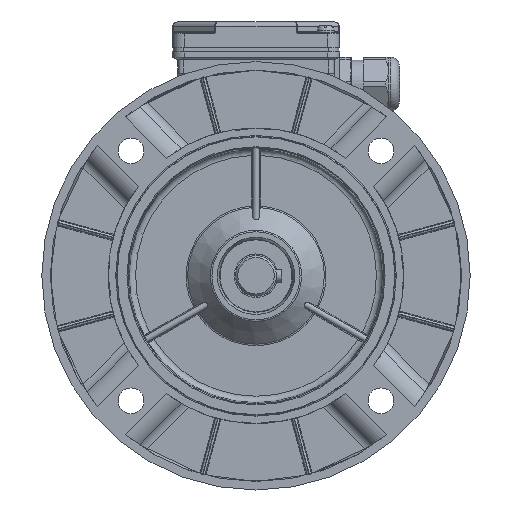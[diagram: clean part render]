
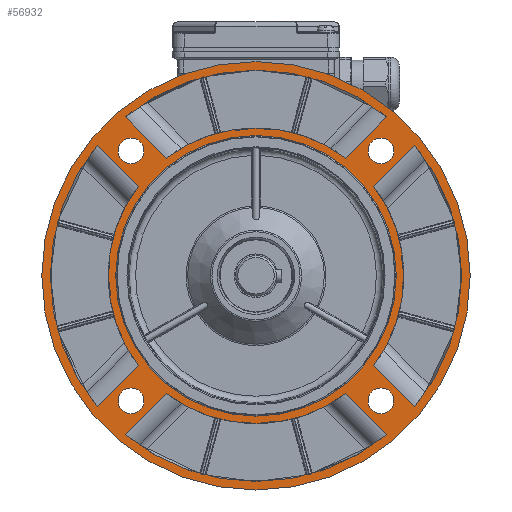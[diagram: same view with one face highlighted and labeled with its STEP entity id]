
A CAD part, left-side view. The second image highlights one B-rep face of the part: STEP entity #56932.
In plain terms, the highlighted planar face has unit normal (-1, 0, 0).
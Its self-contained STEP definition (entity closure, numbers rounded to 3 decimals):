
#2235=LINE('',#85247,#5464);
#2236=LINE('',#85252,#5465);
#2237=LINE('',#85255,#5466);
#2238=LINE('',#85260,#5467);
#2239=LINE('',#85265,#5468);
#2240=LINE('',#85270,#5469);
#2241=LINE('',#85273,#5470);
#2242=LINE('',#85278,#5471);
#5464=VECTOR('',#66592,1000.);
#5465=VECTOR('',#66595,1000.);
#5466=VECTOR('',#66598,1000.);
#5467=VECTOR('',#66601,1000.);
#5468=VECTOR('',#66606,1000.);
#5469=VECTOR('',#66609,1000.);
#5470=VECTOR('',#66612,1000.);
#5471=VECTOR('',#66615,1000.);
#8526=PLANE('',#59944);
#13680=ORIENTED_EDGE('',*,*,#24206,.T.);
#13681=ORIENTED_EDGE('',*,*,#24207,.T.);
#13682=ORIENTED_EDGE('',*,*,#24208,.T.);
#13683=ORIENTED_EDGE('',*,*,#24209,.T.);
#13684=ORIENTED_EDGE('',*,*,#24210,.T.);
#13685=ORIENTED_EDGE('',*,*,#24211,.T.);
#13686=ORIENTED_EDGE('',*,*,#24212,.T.);
#13687=ORIENTED_EDGE('',*,*,#24213,.T.);
#13688=ORIENTED_EDGE('',*,*,#24168,.F.);
#13689=ORIENTED_EDGE('',*,*,#24167,.F.);
#13690=ORIENTED_EDGE('',*,*,#24166,.F.);
#13691=ORIENTED_EDGE('',*,*,#24165,.F.);
#13692=ORIENTED_EDGE('',*,*,#24214,.T.);
#13693=ORIENTED_EDGE('',*,*,#24205,.T.);
#13694=ORIENTED_EDGE('',*,*,#24215,.T.);
#13695=ORIENTED_EDGE('',*,*,#24216,.T.);
#13696=ORIENTED_EDGE('',*,*,#24217,.T.);
#13697=ORIENTED_EDGE('',*,*,#24218,.T.);
#13698=ORIENTED_EDGE('',*,*,#24219,.T.);
#13699=ORIENTED_EDGE('',*,*,#24220,.T.);
#13700=ORIENTED_EDGE('',*,*,#24221,.T.);
#13701=ORIENTED_EDGE('',*,*,#24222,.T.);
#24165=EDGE_CURVE('',#29788,#29788,#33233,.T.);
#24166=EDGE_CURVE('',#29789,#29789,#33234,.T.);
#24167=EDGE_CURVE('',#29790,#29790,#33235,.T.);
#24168=EDGE_CURVE('',#29791,#29791,#33236,.T.);
#24205=EDGE_CURVE('',#29812,#29812,#33246,.T.);
#24206=EDGE_CURVE('',#29813,#29814,#2235,.T.);
#24207=EDGE_CURVE('',#29814,#29815,#33247,.T.);
#24208=EDGE_CURVE('',#29815,#29816,#2236,.T.);
#24209=EDGE_CURVE('',#29816,#29813,#33248,.T.);
#24210=EDGE_CURVE('',#29817,#29818,#2237,.T.);
#24211=EDGE_CURVE('',#29818,#29819,#33249,.T.);
#24212=EDGE_CURVE('',#29819,#29820,#2238,.T.);
#24213=EDGE_CURVE('',#29820,#29817,#33250,.T.);
#24214=EDGE_CURVE('',#29821,#29821,#33251,.F.);
#24215=EDGE_CURVE('',#29822,#29823,#2239,.T.);
#24216=EDGE_CURVE('',#29823,#29824,#33252,.T.);
#24217=EDGE_CURVE('',#29824,#29825,#2240,.T.);
#24218=EDGE_CURVE('',#29825,#29822,#33253,.T.);
#24219=EDGE_CURVE('',#29826,#29827,#2241,.T.);
#24220=EDGE_CURVE('',#29827,#29828,#33254,.T.);
#24221=EDGE_CURVE('',#29828,#29829,#2242,.T.);
#24222=EDGE_CURVE('',#29829,#29826,#33255,.T.);
#29788=VERTEX_POINT('',#85089);
#29789=VERTEX_POINT('',#85092);
#29790=VERTEX_POINT('',#85095);
#29791=VERTEX_POINT('',#85098);
#29812=VERTEX_POINT('',#85245);
#29813=VERTEX_POINT('',#85248);
#29814=VERTEX_POINT('',#85249);
#29815=VERTEX_POINT('',#85251);
#29816=VERTEX_POINT('',#85253);
#29817=VERTEX_POINT('',#85256);
#29818=VERTEX_POINT('',#85257);
#29819=VERTEX_POINT('',#85259);
#29820=VERTEX_POINT('',#85261);
#29821=VERTEX_POINT('',#85264);
#29822=VERTEX_POINT('',#85266);
#29823=VERTEX_POINT('',#85267);
#29824=VERTEX_POINT('',#85269);
#29825=VERTEX_POINT('',#85271);
#29826=VERTEX_POINT('',#85274);
#29827=VERTEX_POINT('',#85275);
#29828=VERTEX_POINT('',#85277);
#29829=VERTEX_POINT('',#85279);
#33233=CIRCLE('',#59908,6.);
#33234=CIRCLE('',#59910,6.);
#33235=CIRCLE('',#59912,6.);
#33236=CIRCLE('',#59914,6.);
#33246=CIRCLE('',#59943,100.);
#33247=CIRCLE('',#59945,69.);
#33248=CIRCLE('',#59946,96.);
#33249=CIRCLE('',#59947,69.);
#33250=CIRCLE('',#59948,96.);
#33251=CIRCLE('',#59949,65.5);
#33252=CIRCLE('',#59950,69.);
#33253=CIRCLE('',#59951,96.);
#33254=CIRCLE('',#59952,69.);
#33255=CIRCLE('',#59953,96.);
#35396=EDGE_LOOP('',(#13680,#13681,#13682,#13683));
#35397=EDGE_LOOP('',(#13684,#13685,#13686,#13687));
#35398=EDGE_LOOP('',(#13688));
#35399=EDGE_LOOP('',(#13689));
#35400=EDGE_LOOP('',(#13690));
#35401=EDGE_LOOP('',(#13691));
#35402=EDGE_LOOP('',(#13692));
#35403=EDGE_LOOP('',(#13693));
#35404=EDGE_LOOP('',(#13694,#13695,#13696,#13697));
#35405=EDGE_LOOP('',(#13698,#13699,#13700,#13701));
#38224=FACE_BOUND('',#35396,.T.);
#38225=FACE_BOUND('',#35397,.T.);
#38226=FACE_BOUND('',#35398,.T.);
#38227=FACE_BOUND('',#35399,.T.);
#38228=FACE_BOUND('',#35400,.T.);
#38229=FACE_BOUND('',#35401,.T.);
#38230=FACE_BOUND('',#35402,.T.);
#38231=FACE_BOUND('',#35403,.T.);
#38232=FACE_BOUND('',#35404,.T.);
#38233=FACE_BOUND('',#35405,.T.);
#56932=ADVANCED_FACE('',(#38224,#38225,#38226,#38227,#38228,#38229,#38230,
#38231,#38232,#38233),#8526,.T.);
#59908=AXIS2_PLACEMENT_3D('',#85088,#66502,#66503);
#59910=AXIS2_PLACEMENT_3D('',#85091,#66506,#66507);
#59912=AXIS2_PLACEMENT_3D('',#85094,#66510,#66511);
#59914=AXIS2_PLACEMENT_3D('',#85097,#66514,#66515);
#59943=AXIS2_PLACEMENT_3D('',#85244,#66588,#66589);
#59944=AXIS2_PLACEMENT_3D('',#85246,#66590,#66591);
#59945=AXIS2_PLACEMENT_3D('',#85250,#66593,#66594);
#59946=AXIS2_PLACEMENT_3D('',#85254,#66596,#66597);
#59947=AXIS2_PLACEMENT_3D('',#85258,#66599,#66600);
#59948=AXIS2_PLACEMENT_3D('',#85262,#66602,#66603);
#59949=AXIS2_PLACEMENT_3D('',#85263,#66604,#66605);
#59950=AXIS2_PLACEMENT_3D('',#85268,#66607,#66608);
#59951=AXIS2_PLACEMENT_3D('',#85272,#66610,#66611);
#59952=AXIS2_PLACEMENT_3D('',#85276,#66613,#66614);
#59953=AXIS2_PLACEMENT_3D('',#85280,#66616,#66617);
#66502=DIRECTION('',(-1.,0.,0.));
#66503=DIRECTION('',(0.,-1.,0.));
#66506=DIRECTION('',(-1.,0.,0.));
#66507=DIRECTION('',(0.,-1.,0.));
#66510=DIRECTION('',(-1.,0.,0.));
#66511=DIRECTION('',(0.,-1.,0.));
#66514=DIRECTION('',(-1.,0.,0.));
#66515=DIRECTION('',(0.,-1.,0.));
#66588=DIRECTION('',(-1.,0.,0.));
#66589=DIRECTION('',(0.,0.,-1.));
#66590=DIRECTION('',(-1.,0.,0.));
#66591=DIRECTION('',(0.,0.,-1.));
#66592=DIRECTION('',(0.,-0.707,-0.707));
#66593=DIRECTION('',(-1.,0.,0.));
#66594=DIRECTION('',(0.,-1.,0.));
#66595=DIRECTION('',(0.,0.707,-0.707));
#66596=DIRECTION('',(1.,0.,0.));
#66597=DIRECTION('',(0.,-1.,0.));
#66598=DIRECTION('',(0.,0.707,0.707));
#66599=DIRECTION('',(-1.,0.,0.));
#66600=DIRECTION('',(0.,1.,0.));
#66601=DIRECTION('',(0.,-0.707,0.707));
#66602=DIRECTION('',(1.,0.,0.));
#66603=DIRECTION('',(0.,1.,0.));
#66604=DIRECTION('',(-1.,0.,0.));
#66605=DIRECTION('',(0.,0.,-1.));
#66606=DIRECTION('',(0.,-0.707,0.707));
#66607=DIRECTION('',(-1.,0.,0.));
#66608=DIRECTION('',(0.,0.,1.));
#66609=DIRECTION('',(0.,-0.707,-0.707));
#66610=DIRECTION('',(1.,0.,0.));
#66611=DIRECTION('',(0.,0.,1.));
#66612=DIRECTION('',(0.,0.707,-0.707));
#66613=DIRECTION('',(-1.,0.,0.));
#66614=DIRECTION('',(0.,0.,-1.));
#66615=DIRECTION('',(0.,0.707,0.707));
#66616=DIRECTION('',(1.,0.,0.));
#66617=DIRECTION('',(0.,0.,-1.));
#85088=CARTESIAN_POINT('',(-44.8,58.336,58.336));
#85089=CARTESIAN_POINT('',(-44.8,52.336,58.336));
#85091=CARTESIAN_POINT('',(-44.8,-58.336,58.336));
#85092=CARTESIAN_POINT('',(-44.8,-64.336,58.336));
#85094=CARTESIAN_POINT('',(-44.8,-58.336,-58.336));
#85095=CARTESIAN_POINT('',(-44.8,-64.336,-58.336));
#85097=CARTESIAN_POINT('',(-44.8,58.336,-58.336));
#85098=CARTESIAN_POINT('',(-44.8,52.336,-58.336));
#85244=CARTESIAN_POINT('',(-44.8,0.,0.));
#85245=CARTESIAN_POINT('',(-44.8,0.,-100.));
#85246=CARTESIAN_POINT('',(-44.8,0.,-65.));
#85247=CARTESIAN_POINT('',(-44.8,53.605,40.403));
#85248=CARTESIAN_POINT('',(-44.8,74.161,60.96));
#85249=CARTESIAN_POINT('',(-44.8,54.943,41.741));
#85250=CARTESIAN_POINT('',(-44.8,0.,0.));
#85251=CARTESIAN_POINT('',(-44.8,54.943,-41.741));
#85252=CARTESIAN_POINT('',(-44.8,73.211,-60.009));
#85253=CARTESIAN_POINT('',(-44.8,74.161,-60.96));
#85254=CARTESIAN_POINT('',(-44.8,0.,0.));
#85255=CARTESIAN_POINT('',(-44.8,-53.605,-40.403));
#85256=CARTESIAN_POINT('',(-44.8,-74.161,-60.96));
#85257=CARTESIAN_POINT('',(-44.8,-54.943,-41.741));
#85258=CARTESIAN_POINT('',(-44.8,0.,0.));
#85259=CARTESIAN_POINT('',(-44.8,-54.943,41.741));
#85260=CARTESIAN_POINT('',(-44.8,-73.211,60.009));
#85261=CARTESIAN_POINT('',(-44.8,-74.161,60.96));
#85262=CARTESIAN_POINT('',(-44.8,0.,0.));
#85263=CARTESIAN_POINT('',(-44.8,0.,0.));
#85264=CARTESIAN_POINT('',(-44.8,0.,-65.5));
#85265=CARTESIAN_POINT('',(-44.8,40.403,-53.605));
#85266=CARTESIAN_POINT('',(-44.8,60.96,-74.161));
#85267=CARTESIAN_POINT('',(-44.8,41.741,-54.943));
#85268=CARTESIAN_POINT('',(-44.8,0.,0.));
#85269=CARTESIAN_POINT('',(-44.8,-41.741,-54.943));
#85270=CARTESIAN_POINT('',(-44.8,-60.009,-73.211));
#85271=CARTESIAN_POINT('',(-44.8,-60.96,-74.161));
#85272=CARTESIAN_POINT('',(-44.8,0.,0.));
#85273=CARTESIAN_POINT('',(-44.8,-40.403,53.605));
#85274=CARTESIAN_POINT('',(-44.8,-60.96,74.161));
#85275=CARTESIAN_POINT('',(-44.8,-41.741,54.943));
#85276=CARTESIAN_POINT('',(-44.8,0.,0.));
#85277=CARTESIAN_POINT('',(-44.8,41.741,54.943));
#85278=CARTESIAN_POINT('',(-44.8,60.009,73.211));
#85279=CARTESIAN_POINT('',(-44.8,60.96,74.161));
#85280=CARTESIAN_POINT('',(-44.8,0.,0.));
